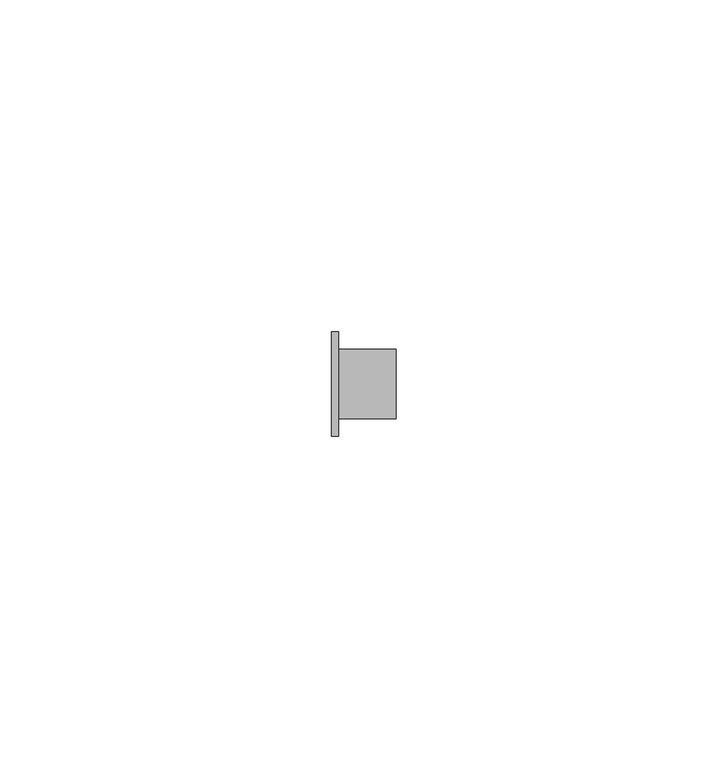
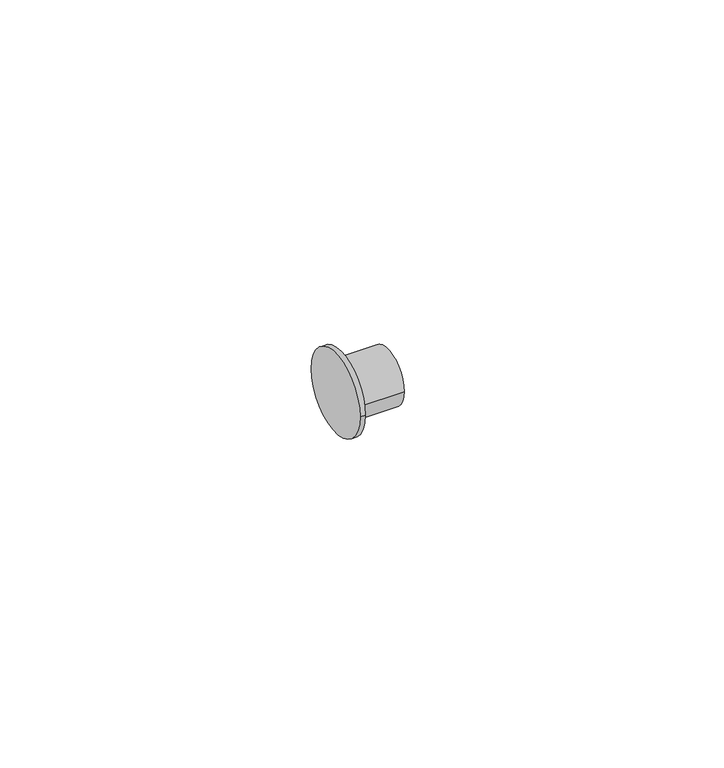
"""IFC4 building model written with IfcOpenShell, lengths in millimetres: pipe fitting geometry, Bucha de redução reta - Soldada - CU : Padrão."""

from ifc_helpers import new_model, si_unit, frame, origin, place, context, project, spatial, circle_curve, source, transform, mapped, element, save
from ifc_brep_helpers import plane_surface, cylinder_surface, advanced_brep


def pipe_fitting_cbda5a7c(model_context):
    return source(origin(), model_context, "Body", "AdvancedBrep", [
        advanced_brep(
        [(0.0, -7.835, 0.0), (0.0, 7.835, 0.0), (1.0, -7.835, 0.0), (1.0, 7.835, 0.0), (1.0, -5.2552, 0.0), (1.0, 5.2552, 0.0), (9.6744, -5.2552, 0.0), (9.6744, 5.2552, 0.0)],
        [
            (0, 1, circle_curve(frame((0.0, 0.0, 0.0), z_axis=(-1.0, 0.0, 0.0), x_axis=(0.0, 1.0, 0.0)), 7.835)),
            (1, 0, circle_curve(frame((0.0, 0.0, 0.0), z_axis=(-1.0, 0.0, 0.0), x_axis=(0.0, 1.0, 0.0)), 7.835)),
            (2, 3, circle_curve(frame((1.0, 0.0, 0.0), z_axis=(1.0, 0.0, 0.0), x_axis=(0.0, 1.0, 0.0)), 7.835)),
            (3, 2, circle_curve(frame((1.0, 0.0, 0.0), z_axis=(1.0, 0.0, 0.0), x_axis=(0.0, 1.0, 0.0)), 7.835)),
            (4, 5, circle_curve(frame((1.0, 0.0, 0.0), z_axis=(-1.0, 0.0, 0.0), x_axis=(0.0, 1.0, 0.0)), 5.2552)),
            (5, 4, circle_curve(frame((1.0, 0.0, 0.0), z_axis=(-1.0, 0.0, 0.0), x_axis=(0.0, 1.0, 0.0)), 5.2552)),
            (0, 2),
            (3, 1),
            (6, 7, circle_curve(frame((9.6744, 0.0, 0.0), z_axis=(1.0, 0.0, 0.0), x_axis=(0.0, 1.0, 0.0)), 5.2552)),
            (7, 6, circle_curve(frame((9.6744, 0.0, 0.0), z_axis=(1.0, 0.0, 0.0), x_axis=(0.0, 1.0, 0.0)), 5.2552)),
            (7, 5),
            (4, 6),
        ],
        [
            plane_surface(frame((0.0, 0.0, 0.0), z_axis=(-1.0, 0.0, 0.0), x_axis=(0.0, 0.0, 1.0))),
            plane_surface(frame((1.0, 0.0, 0.0), z_axis=(1.0, 0.0, 0.0), x_axis=(0.0, 0.0, 1.0))),
            cylinder_surface(frame((0.0, 0.0, 0.0), z_axis=(-1.0, 0.0, 0.0), x_axis=(0.0, 1.0, 0.0)), 7.835),
            plane_surface(frame((9.6744, 0.0, 0.0), z_axis=(1.0, 0.0, 0.0), x_axis=(0.0, 0.0, 1.0))),
            cylinder_surface(frame((1.0, 0.0, 0.0), z_axis=(-1.0, 0.0, 0.0), x_axis=(0.0, 1.0, 0.0)), 5.2552),
        ],
        [
            (0, [[1, 2]]),
            (1, [[3, 4], [5, 6]]),
            (2, [[-1, 7, -4, 8]]),
            (2, [[-2, -8, -3, -7]]),
            (3, [[9, 10]]),
            (4, [[-10, 11, -5, 12]]),
            (4, [[-9, -12, -6, -11]]),
        ],
    ),
    ])


if __name__ == "__main__":
    model = new_model("IFC4")
    model_context = context("Model", 3, world=origin())
    ifc_project = project(units=[si_unit("LENGTHUNIT", "METRE", prefix="MILLI")], contexts=[model_context])
    site = spatial("IfcSite", under=ifc_project)
    building = spatial("IfcBuilding", under=site)
    placement = place(None, origin())
    pipe_fitting_shape = pipe_fitting_cbda5a7c(model_context)
    element("IfcPipeFitting", 1, ObjectType="Bucha de redução reta - Soldada - CU : Padrão", at=placement, inside=building, context=model_context, shape_type="MappedRepresentation", body=[
        mapped(pipe_fitting_shape, transform((0.0, 0.0, 0.0), x_axis=(1.0, 0.0, 0.0), y_axis=(0.0, 1.0, 0.0), z_axis=(0.0, 0.0, 1.0))),
    ])
    save(model, "model.ifc")
